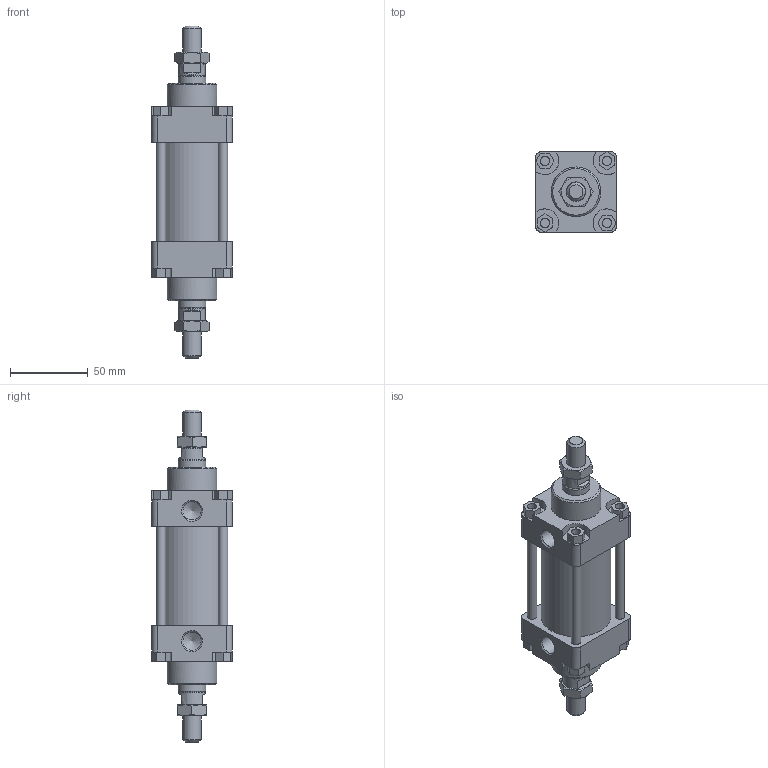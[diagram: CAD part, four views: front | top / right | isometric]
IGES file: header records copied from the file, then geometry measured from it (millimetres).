
Global section: file name: 130#_040_0000_02A; native system: Autodesk Inventor 2014; preprocessor: unknown; author: A. Manieri; date: 20161123.143700; units: millimetre
Bounding box: 52 x 52 x 214 mm (x, y, z)
Volume: 257327.6 mm3; surface area: 74918.1 mm2
Topology: 10 solids, 10 shells, 187 faces, 467 edges, 314 vertices
Faces by surface type: bspline 187
